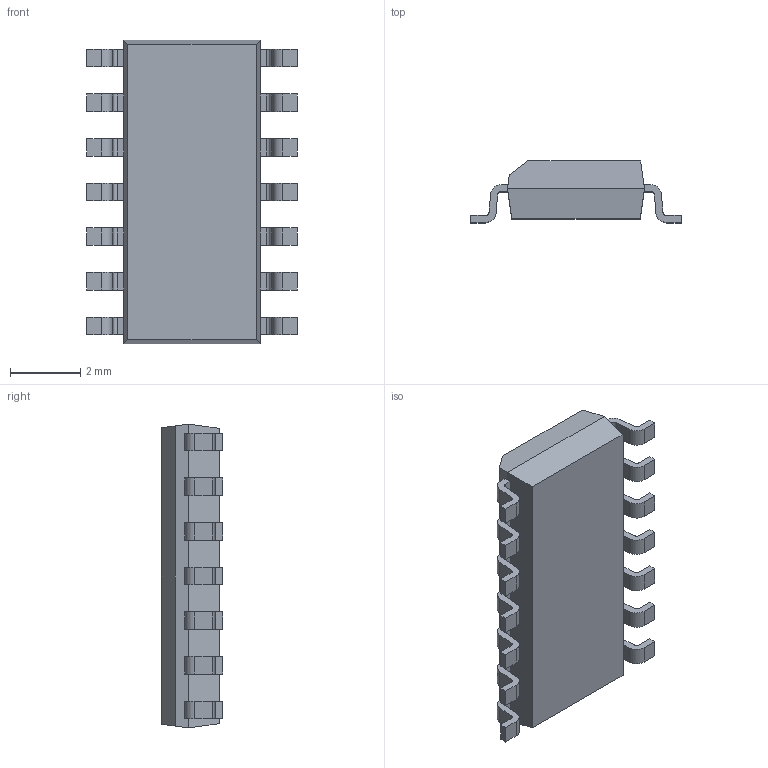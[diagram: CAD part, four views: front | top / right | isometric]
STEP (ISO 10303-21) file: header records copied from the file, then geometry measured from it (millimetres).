
FILE_DESCRIPTION (( 'STEP AP214' ), '1' );
FILE_NAME ('SOIC127P600X175-14_MS-012F.AB.STEP', '2014-10-28T13:43:27', ( 'Tester2' ), ( '' ), 'SwSTEP 2.0', 'SolidWorks 2012', '' );
FILE_SCHEMA (( 'AUTOMOTIVE_DESIGN' ));
Length unit declared in the file: millimetre
Products named in the file (1): SOIC127P600X175-14_MS-012F.AB
Bounding box: 6 x 1.75 x 8.65 mm (x, y, z)
Volume: 54.9 mm3; surface area: 134.7 mm2
Topology: 1 solids, 1 shells, 196 faces, 575 edges, 382 vertices
Faces by surface type: plane 138, cylinder 58
Entity records: 8552 total; most frequent: CARTESIAN_POINT 1154, ORIENTED_EDGE 1150, DIRECTION 1085, EDGE_CURVE 575, VECTOR 459, LINE 459, VERTEX_POINT 382, AXIS2_PLACEMENT_3D 313
